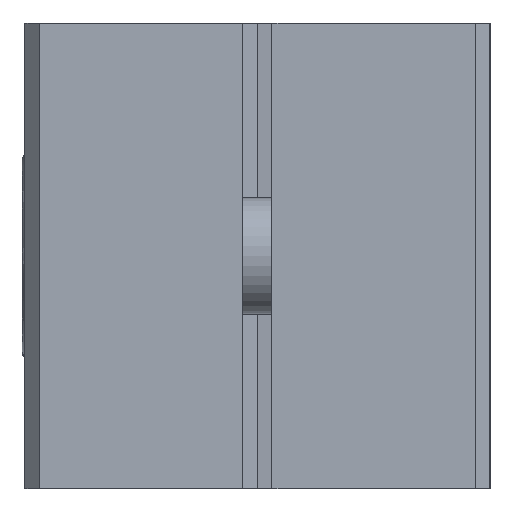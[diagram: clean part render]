
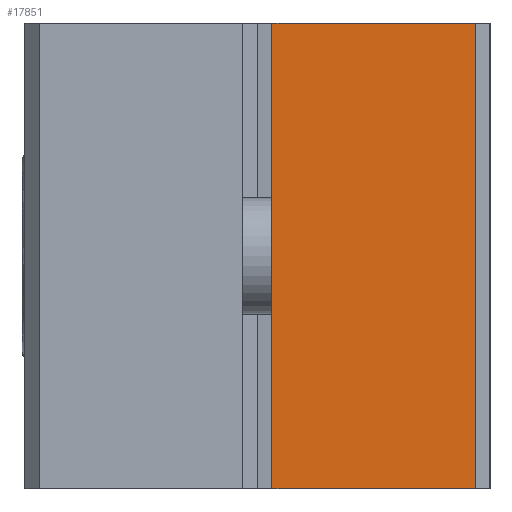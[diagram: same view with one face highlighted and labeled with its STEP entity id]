
A CAD part, left-side view. The second image highlights one B-rep face of the part: STEP entity #17851.
In plain terms, the highlighted planar face has unit normal (-1, 0, 0).
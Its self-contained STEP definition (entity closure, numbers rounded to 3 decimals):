
#885 = ORIENTED_EDGE ( 'NONE', *, *, #3658, .F. ) ;
#1845 = VECTOR ( 'NONE', #21592, 1000. ) ;
#2905 = EDGE_CURVE ( 'NONE', #19045, #17279, #20334, .T. ) ;
#3196 = EDGE_CURVE ( 'NONE', #4746, #19045, #17849, .T. ) ;
#3226 = CARTESIAN_POINT ( 'NONE',  ( -75.042, 1.42, 30.193 ) ) ;
#3651 = VERTEX_POINT ( 'NONE', #6306 ) ;
#3658 = EDGE_CURVE ( 'NONE', #3651, #17279, #6431, .T. ) ;
#3915 = ORIENTED_EDGE ( 'NONE', *, *, #2905, .T. ) ;
#4706 = DIRECTION ( 'NONE',  ( 0., 0., 1. ) ) ;
#4746 = VERTEX_POINT ( 'NONE', #3226 ) ;
#4936 = DIRECTION ( 'NONE',  ( 0., 0., -1. ) ) ;
#5824 = CARTESIAN_POINT ( 'NONE',  ( -75.042, 8.42, 30.193 ) ) ;
#6306 = CARTESIAN_POINT ( 'NONE',  ( -75.042, 1.42, 14.193 ) ) ;
#6431 = LINE ( 'NONE', #8060, #1845 ) ;
#6472 = VECTOR ( 'NONE', #21915, 1000. ) ;
#7022 = ORIENTED_EDGE ( 'NONE', *, *, #3196, .T. ) ;
#8060 = CARTESIAN_POINT ( 'NONE',  ( -75.042, 8.92, 14.193 ) ) ;
#10276 = ORIENTED_EDGE ( 'NONE', *, *, #19919, .T. ) ;
#10322 = CARTESIAN_POINT ( 'NONE',  ( -75.042, 8.42, 22.193 ) ) ;
#11654 = VECTOR ( 'NONE', #4706, 1000. ) ;
#11679 = DIRECTION ( 'NONE',  ( 1., 0., 0. ) ) ;
#11900 = LINE ( 'NONE', #21879, #11654 ) ;
#12733 = VECTOR ( 'NONE', #4936, 1000. ) ;
#13261 = CARTESIAN_POINT ( 'NONE',  ( -75.042, 1.42, 30.193 ) ) ;
#15162 = EDGE_LOOP ( 'NONE', ( #7022, #3915, #885, #10276 ) ) ;
#17093 = CARTESIAN_POINT ( 'NONE',  ( -75.042, 8.42, 14.193 ) ) ;
#17279 = VERTEX_POINT ( 'NONE', #17093 ) ;
#17849 = LINE ( 'NONE', #20426, #6472 ) ;
#17851 = ADVANCED_FACE ( 'NONE', ( #22304 ), #18415, .F. ) ;
#18415 = PLANE ( 'NONE',  #20206 ) ;
#19045 = VERTEX_POINT ( 'NONE', #5824 ) ;
#19919 = EDGE_CURVE ( 'NONE', #3651, #4746, #11900, .T. ) ;
#20206 = AXIS2_PLACEMENT_3D ( 'NONE', #13261, #11679, #20466 ) ;
#20334 = LINE ( 'NONE', #10322, #12733 ) ;
#20426 = CARTESIAN_POINT ( 'NONE',  ( -75.042, 8.92, 30.193 ) ) ;
#20466 = DIRECTION ( 'NONE',  ( 0., 0., -1. ) ) ;
#21592 = DIRECTION ( 'NONE',  ( 0., 1., 0. ) ) ;
#21879 = CARTESIAN_POINT ( 'NONE',  ( -75.042, 1.42, 22.193 ) ) ;
#21915 = DIRECTION ( 'NONE',  ( 0., 1., 0. ) ) ;
#22304 = FACE_OUTER_BOUND ( 'NONE', #15162, .T. ) ;
